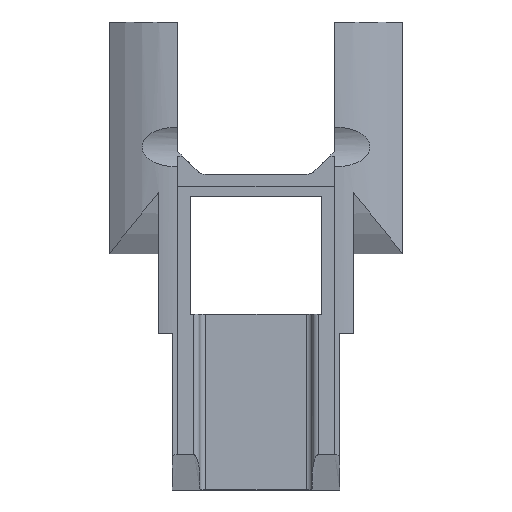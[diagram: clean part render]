
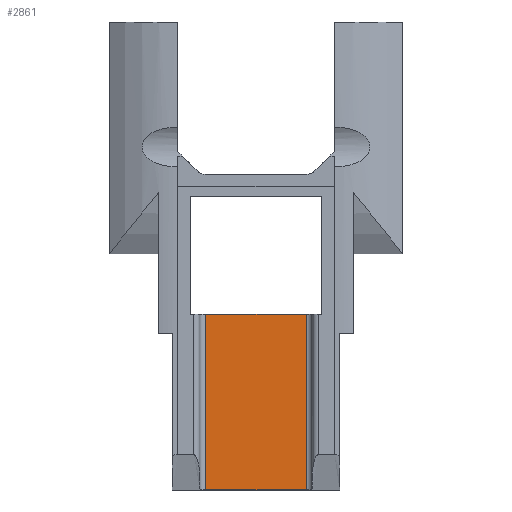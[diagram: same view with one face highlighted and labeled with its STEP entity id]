
A CAD part, top view. The second image highlights one B-rep face of the part: STEP entity #2861.
In plain terms, the highlighted planar face has unit normal (0, 0, 1).
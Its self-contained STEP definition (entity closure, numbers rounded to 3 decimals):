
#315=FACE_OUTER_BOUND('',#505,.T.);
#505=EDGE_LOOP('',(#2248,#2249,#2250,#2251));
#823=LINE('',#4756,#1111);
#825=LINE('',#4765,#1113);
#826=LINE('',#4766,#1114);
#827=LINE('',#4767,#1115);
#1111=VECTOR('',#3754,10.);
#1113=VECTOR('',#3762,10.);
#1114=VECTOR('',#3763,10.);
#1115=VECTOR('',#3764,10.);
#1436=VERTEX_POINT('',#4754);
#1437=VERTEX_POINT('',#4755);
#1440=VERTEX_POINT('',#4763);
#1441=VERTEX_POINT('',#4764);
#1754=EDGE_CURVE('',#1436,#1437,#823,.T.);
#1758=EDGE_CURVE('',#1440,#1441,#825,.T.);
#1759=EDGE_CURVE('',#1440,#1437,#826,.F.);
#1760=EDGE_CURVE('',#1441,#1436,#827,.T.);
#2248=ORIENTED_EDGE('',*,*,#1758,.F.);
#2249=ORIENTED_EDGE('',*,*,#1759,.T.);
#2250=ORIENTED_EDGE('',*,*,#1754,.F.);
#2251=ORIENTED_EDGE('',*,*,#1760,.F.);
#2710=PLANE('',#3121);
#2861=ADVANCED_FACE('',(#315),#2710,.F.);
#3121=AXIS2_PLACEMENT_3D('',#4762,#3760,#3761);
#3754=DIRECTION('',(0.,1.,0.));
#3760=DIRECTION('center_axis',(0.,0.,-1.));
#3761=DIRECTION('ref_axis',(-1.,0.,0.));
#3762=DIRECTION('',(0.,-1.,0.));
#3763=DIRECTION('',(1.,0.,0.));
#3764=DIRECTION('',(-1.,0.,0.));
#4754=CARTESIAN_POINT('',(-21.774,-330.,61.084));
#4755=CARTESIAN_POINT('',(-21.774,-255.,61.084));
#4756=CARTESIAN_POINT('',(-21.774,-330.,61.084));
#4762=CARTESIAN_POINT('Origin',(15.726,-330.,61.084));
#4763=CARTESIAN_POINT('',(21.226,-255.,61.084));
#4764=CARTESIAN_POINT('',(21.226,-330.,61.084));
#4765=CARTESIAN_POINT('',(21.226,-330.,61.084));
#4766=CARTESIAN_POINT('',(7.726,-255.,61.084));
#4767=CARTESIAN_POINT('',(-10.024,-330.,61.084));
